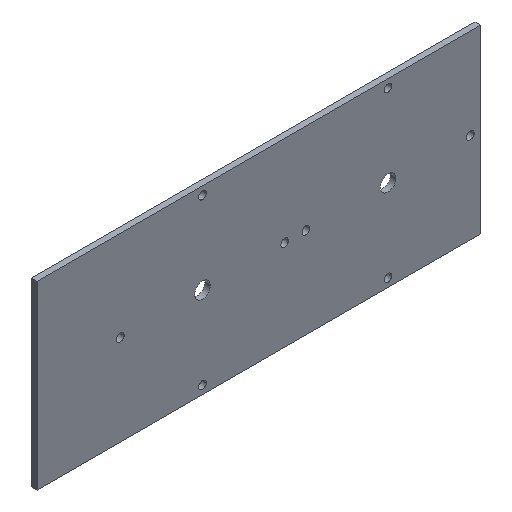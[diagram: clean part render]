
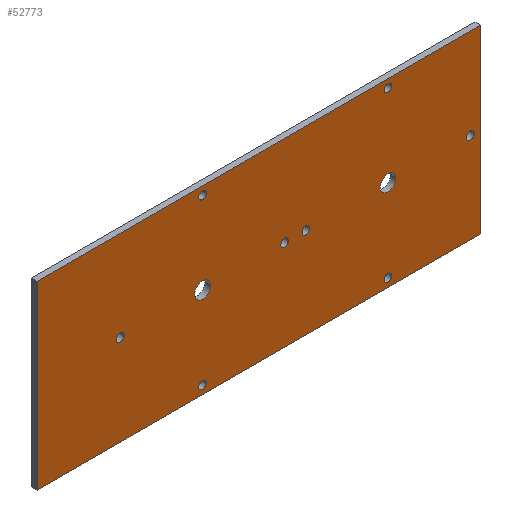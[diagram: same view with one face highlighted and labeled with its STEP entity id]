
A CAD part, isometric view. The second image highlights one B-rep face of the part: STEP entity #52773.
In plain terms, the highlighted planar face has unit normal (0, -1, 0).
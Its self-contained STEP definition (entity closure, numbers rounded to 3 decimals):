
#4354=DIRECTION('',(1.,0.,0.));
#4355=VECTOR('',#4354,121.4);
#4356=CARTESIAN_POINT('',(-35.3,-1.5,24.75));
#4357=LINE('',#4356,#4355);
#4358=DIRECTION('',(-1.,0.,0.));
#4359=VECTOR('',#4358,121.4);
#4360=CARTESIAN_POINT('',(86.1,-1.5,-24.75));
#4361=LINE('',#4360,#4359);
#4362=CARTESIAN_POINT('',(32.5,-1.5,0.));
#4363=DIRECTION('',(0.,-1.,0.));
#4364=DIRECTION('',(1.,0.,0.));
#4365=AXIS2_PLACEMENT_3D('',#4362,#4363,#4364);
#4367=CARTESIAN_POINT('',(32.5,-1.5,0.));
#4368=DIRECTION('',(0.,-1.,0.));
#4369=DIRECTION('',(-1.,0.,0.));
#4370=AXIS2_PLACEMENT_3D('',#4367,#4368,#4369);
#4372=CARTESIAN_POINT('',(-12.5,-1.5,0.));
#4373=DIRECTION('',(0.,-1.,0.));
#4374=DIRECTION('',(1.,0.,0.));
#4375=AXIS2_PLACEMENT_3D('',#4372,#4373,#4374);
#4377=CARTESIAN_POINT('',(-12.5,-1.5,0.));
#4378=DIRECTION('',(0.,-1.,0.));
#4379=DIRECTION('',(-1.,0.,0.));
#4380=AXIS2_PLACEMENT_3D('',#4377,#4378,#4379);
#4382=CARTESIAN_POINT('',(10.,-1.5,22.5));
#4383=DIRECTION('',(0.,-1.,0.));
#4384=DIRECTION('',(1.,0.,0.));
#4385=AXIS2_PLACEMENT_3D('',#4382,#4383,#4384);
#4387=CARTESIAN_POINT('',(10.,-1.5,22.5));
#4388=DIRECTION('',(0.,-1.,0.));
#4389=DIRECTION('',(-1.,0.,0.));
#4390=AXIS2_PLACEMENT_3D('',#4387,#4388,#4389);
#4392=CARTESIAN_POINT('',(10.,-1.5,-22.5));
#4393=DIRECTION('',(0.,-1.,0.));
#4394=DIRECTION('',(1.,0.,0.));
#4395=AXIS2_PLACEMENT_3D('',#4392,#4393,#4394);
#4397=CARTESIAN_POINT('',(10.,-1.5,-22.5));
#4398=DIRECTION('',(0.,-1.,0.));
#4399=DIRECTION('',(-1.,0.,0.));
#4400=AXIS2_PLACEMENT_3D('',#4397,#4398,#4399);
#4402=CARTESIAN_POINT('',(10.,-1.5,0.));
#4403=DIRECTION('',(0.,-1.,0.));
#4404=DIRECTION('',(1.,0.,0.));
#4405=AXIS2_PLACEMENT_3D('',#4402,#4403,#4404);
#4407=CARTESIAN_POINT('',(10.,-1.5,0.));
#4408=DIRECTION('',(0.,-1.,0.));
#4409=DIRECTION('',(-1.,0.,0.));
#4410=AXIS2_PLACEMENT_3D('',#4407,#4408,#4409);
#4412=CARTESIAN_POINT('',(60.8,-1.5,0.));
#4413=DIRECTION('',(0.,-1.,0.));
#4414=DIRECTION('',(-1.,0.,0.));
#4415=AXIS2_PLACEMENT_3D('',#4412,#4413,#4414);
#4417=CARTESIAN_POINT('',(60.8,-1.5,0.));
#4418=DIRECTION('',(0.,-1.,0.));
#4419=DIRECTION('',(1.,0.,0.));
#4420=AXIS2_PLACEMENT_3D('',#4417,#4418,#4419);
#4422=CARTESIAN_POINT('',(60.8,-1.5,-22.5));
#4423=DIRECTION('',(0.,-1.,0.));
#4424=DIRECTION('',(-1.,0.,0.));
#4425=AXIS2_PLACEMENT_3D('',#4422,#4423,#4424);
#4427=CARTESIAN_POINT('',(60.8,-1.5,-22.5));
#4428=DIRECTION('',(0.,-1.,0.));
#4429=DIRECTION('',(1.,0.,0.));
#4430=AXIS2_PLACEMENT_3D('',#4427,#4428,#4429);
#4432=CARTESIAN_POINT('',(60.8,-1.5,22.5));
#4433=DIRECTION('',(0.,-1.,0.));
#4434=DIRECTION('',(-1.,0.,0.));
#4435=AXIS2_PLACEMENT_3D('',#4432,#4433,#4434);
#4437=CARTESIAN_POINT('',(60.8,-1.5,22.5));
#4438=DIRECTION('',(0.,-1.,0.));
#4439=DIRECTION('',(1.,0.,0.));
#4440=AXIS2_PLACEMENT_3D('',#4437,#4438,#4439);
#4442=CARTESIAN_POINT('',(83.3,-1.5,0.));
#4443=DIRECTION('',(0.,-1.,0.));
#4444=DIRECTION('',(-1.,0.,0.));
#4445=AXIS2_PLACEMENT_3D('',#4442,#4443,#4444);
#4447=CARTESIAN_POINT('',(83.3,-1.5,0.));
#4448=DIRECTION('',(0.,-1.,0.));
#4449=DIRECTION('',(1.,0.,0.));
#4450=AXIS2_PLACEMENT_3D('',#4447,#4448,#4449);
#4452=CARTESIAN_POINT('',(38.3,-1.5,0.));
#4453=DIRECTION('',(0.,-1.,0.));
#4454=DIRECTION('',(-1.,0.,0.));
#4455=AXIS2_PLACEMENT_3D('',#4452,#4453,#4454);
#4457=CARTESIAN_POINT('',(38.3,-1.5,0.));
#4458=DIRECTION('',(0.,-1.,0.));
#4459=DIRECTION('',(1.,0.,0.));
#4460=AXIS2_PLACEMENT_3D('',#4457,#4458,#4459);
#4466=DIRECTION('',(0.,0.,1.));
#4467=VECTOR('',#4466,49.5);
#4468=CARTESIAN_POINT('',(86.1,-1.5,-24.75));
#4469=LINE('',#4468,#4467);
#4474=DIRECTION('',(0.,0.,-1.));
#4475=VECTOR('',#4474,49.5);
#4476=CARTESIAN_POINT('',(-35.3,-1.5,24.75));
#4477=LINE('',#4476,#4475);
#46977=CARTESIAN_POINT('',(11.05,-1.5,-22.5));
#46978=CARTESIAN_POINT('',(8.95,-1.5,-22.5));
#46979=VERTEX_POINT('',#46977);
#46980=VERTEX_POINT('',#46978);
#46981=CARTESIAN_POINT('',(-35.3,-1.5,24.75));
#46982=CARTESIAN_POINT('',(86.1,-1.5,24.75));
#46983=VERTEX_POINT('',#46981);
#46984=VERTEX_POINT('',#46982);
#46985=CARTESIAN_POINT('',(86.1,-1.5,-24.75));
#46986=VERTEX_POINT('',#46985);
#46987=CARTESIAN_POINT('',(-35.3,-1.5,-24.75));
#46988=VERTEX_POINT('',#46987);
#46989=CARTESIAN_POINT('',(33.55,-1.5,0.));
#46990=CARTESIAN_POINT('',(31.45,-1.5,0.));
#46991=VERTEX_POINT('',#46989);
#46992=VERTEX_POINT('',#46990);
#46993=CARTESIAN_POINT('',(-11.45,-1.5,0.));
#46994=CARTESIAN_POINT('',(-13.55,-1.5,0.));
#46995=VERTEX_POINT('',#46993);
#46996=VERTEX_POINT('',#46994);
#46997=CARTESIAN_POINT('',(11.05,-1.5,22.5));
#46998=CARTESIAN_POINT('',(8.95,-1.5,22.5));
#46999=VERTEX_POINT('',#46997);
#47000=VERTEX_POINT('',#46998);
#47001=CARTESIAN_POINT('',(12.15,-1.5,0.));
#47002=CARTESIAN_POINT('',(7.85,-1.5,0.));
#47003=VERTEX_POINT('',#47001);
#47004=VERTEX_POINT('',#47002);
#47005=CARTESIAN_POINT('',(58.65,-1.5,0.));
#47006=CARTESIAN_POINT('',(62.95,-1.5,0.));
#47007=VERTEX_POINT('',#47005);
#47008=VERTEX_POINT('',#47006);
#47009=CARTESIAN_POINT('',(59.75,-1.5,-22.5));
#47010=CARTESIAN_POINT('',(61.85,-1.5,-22.5));
#47011=VERTEX_POINT('',#47009);
#47012=VERTEX_POINT('',#47010);
#47013=CARTESIAN_POINT('',(59.75,-1.5,22.5));
#47014=CARTESIAN_POINT('',(61.85,-1.5,22.5));
#47015=VERTEX_POINT('',#47013);
#47016=VERTEX_POINT('',#47014);
#47017=CARTESIAN_POINT('',(82.25,-1.5,0.));
#47018=CARTESIAN_POINT('',(84.35,-1.5,0.));
#47019=VERTEX_POINT('',#47017);
#47020=VERTEX_POINT('',#47018);
#47021=CARTESIAN_POINT('',(37.25,-1.5,0.));
#47022=CARTESIAN_POINT('',(39.35,-1.5,0.));
#47023=VERTEX_POINT('',#47021);
#47024=VERTEX_POINT('',#47022);
#52699=CARTESIAN_POINT('',(-32.973,-1.5,1.149));
#52700=DIRECTION('',(0.,1.,0.));
#52701=DIRECTION('',(1.,0.,0.));
#52702=AXIS2_PLACEMENT_3D('',#52699,#52700,#52701);
#52703=PLANE('',#52702);
#52705=ORIENTED_EDGE('',*,*,#52704,.T.);
#52707=ORIENTED_EDGE('',*,*,#52706,.F.);
#52708=ORIENTED_EDGE('',*,*,#52682,.T.);
#52710=ORIENTED_EDGE('',*,*,#52709,.F.);
#52711=EDGE_LOOP('',(#52705,#52707,#52708,#52710));
#52712=FACE_OUTER_BOUND('',#52711,.F.);
#52714=ORIENTED_EDGE('',*,*,#52713,.T.);
#52716=ORIENTED_EDGE('',*,*,#52715,.T.);
#52717=EDGE_LOOP('',(#52714,#52716));
#52718=FACE_BOUND('',#52717,.F.);
#52720=ORIENTED_EDGE('',*,*,#52719,.T.);
#52722=ORIENTED_EDGE('',*,*,#52721,.T.);
#52723=EDGE_LOOP('',(#52720,#52722));
#52724=FACE_BOUND('',#52723,.F.);
#52726=ORIENTED_EDGE('',*,*,#52725,.T.);
#52728=ORIENTED_EDGE('',*,*,#52727,.T.);
#52729=EDGE_LOOP('',(#52726,#52728));
#52730=FACE_BOUND('',#52729,.F.);
#52732=ORIENTED_EDGE('',*,*,#52731,.T.);
#52734=ORIENTED_EDGE('',*,*,#52733,.T.);
#52735=EDGE_LOOP('',(#52732,#52734));
#52736=FACE_BOUND('',#52735,.F.);
#52738=ORIENTED_EDGE('',*,*,#52737,.T.);
#52740=ORIENTED_EDGE('',*,*,#52739,.T.);
#52741=EDGE_LOOP('',(#52738,#52740));
#52742=FACE_BOUND('',#52741,.F.);
#52744=ORIENTED_EDGE('',*,*,#52743,.T.);
#52746=ORIENTED_EDGE('',*,*,#52745,.T.);
#52747=EDGE_LOOP('',(#52744,#52746));
#52748=FACE_BOUND('',#52747,.F.);
#52750=ORIENTED_EDGE('',*,*,#52749,.T.);
#52752=ORIENTED_EDGE('',*,*,#52751,.T.);
#52753=EDGE_LOOP('',(#52750,#52752));
#52754=FACE_BOUND('',#52753,.F.);
#52756=ORIENTED_EDGE('',*,*,#52755,.T.);
#52758=ORIENTED_EDGE('',*,*,#52757,.T.);
#52759=EDGE_LOOP('',(#52756,#52758));
#52760=FACE_BOUND('',#52759,.F.);
#52762=ORIENTED_EDGE('',*,*,#52761,.T.);
#52764=ORIENTED_EDGE('',*,*,#52763,.T.);
#52765=EDGE_LOOP('',(#52762,#52764));
#52766=FACE_BOUND('',#52765,.F.);
#52768=ORIENTED_EDGE('',*,*,#52767,.T.);
#52770=ORIENTED_EDGE('',*,*,#52769,.T.);
#52771=EDGE_LOOP('',(#52768,#52770));
#52772=FACE_BOUND('',#52771,.F.);
#4366=CIRCLE('',#4365,1.05);
#4371=CIRCLE('',#4370,1.05);
#4376=CIRCLE('',#4375,1.05);
#4381=CIRCLE('',#4380,1.05);
#4386=CIRCLE('',#4385,1.05);
#4391=CIRCLE('',#4390,1.05);
#4396=CIRCLE('',#4395,1.05);
#4401=CIRCLE('',#4400,1.05);
#4406=CIRCLE('',#4405,2.15);
#4411=CIRCLE('',#4410,2.15);
#4416=CIRCLE('',#4415,2.15);
#4421=CIRCLE('',#4420,2.15);
#4426=CIRCLE('',#4425,1.05);
#4431=CIRCLE('',#4430,1.05);
#4436=CIRCLE('',#4435,1.05);
#4441=CIRCLE('',#4440,1.05);
#4446=CIRCLE('',#4445,1.05);
#4451=CIRCLE('',#4450,1.05);
#4456=CIRCLE('',#4455,1.05);
#4461=CIRCLE('',#4460,1.05);
#52682=EDGE_CURVE('',#46986,#46988,#4361,.T.);
#52704=EDGE_CURVE('',#46983,#46984,#4357,.T.);
#52706=EDGE_CURVE('',#46986,#46984,#4469,.T.);
#52709=EDGE_CURVE('',#46983,#46988,#4477,.T.);
#52713=EDGE_CURVE('',#46991,#46992,#4366,.T.);
#52715=EDGE_CURVE('',#46992,#46991,#4371,.T.);
#52719=EDGE_CURVE('',#46995,#46996,#4376,.T.);
#52721=EDGE_CURVE('',#46996,#46995,#4381,.T.);
#52725=EDGE_CURVE('',#46999,#47000,#4386,.T.);
#52727=EDGE_CURVE('',#47000,#46999,#4391,.T.);
#52731=EDGE_CURVE('',#46979,#46980,#4396,.T.);
#52733=EDGE_CURVE('',#46980,#46979,#4401,.T.);
#52737=EDGE_CURVE('',#47003,#47004,#4406,.T.);
#52739=EDGE_CURVE('',#47004,#47003,#4411,.T.);
#52743=EDGE_CURVE('',#47007,#47008,#4416,.T.);
#52745=EDGE_CURVE('',#47008,#47007,#4421,.T.);
#52749=EDGE_CURVE('',#47011,#47012,#4426,.T.);
#52751=EDGE_CURVE('',#47012,#47011,#4431,.T.);
#52755=EDGE_CURVE('',#47015,#47016,#4436,.T.);
#52757=EDGE_CURVE('',#47016,#47015,#4441,.T.);
#52761=EDGE_CURVE('',#47019,#47020,#4446,.T.);
#52763=EDGE_CURVE('',#47020,#47019,#4451,.T.);
#52767=EDGE_CURVE('',#47023,#47024,#4456,.T.);
#52769=EDGE_CURVE('',#47024,#47023,#4461,.T.);
#52773=ADVANCED_FACE('',(#52712,#52718,#52724,#52730,#52736,#52742,#52748,
#52754,#52760,#52766,#52772),#52703,.F.);
